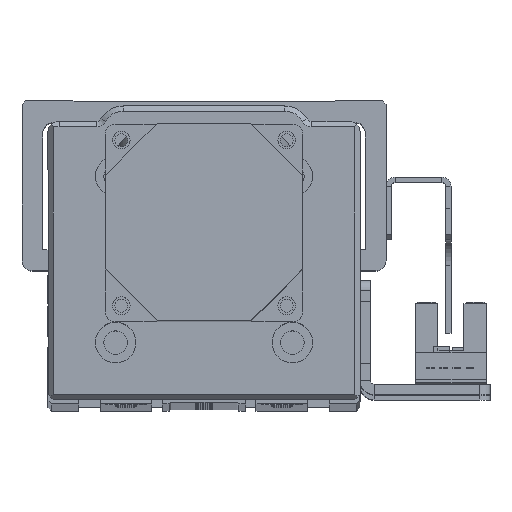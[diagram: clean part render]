
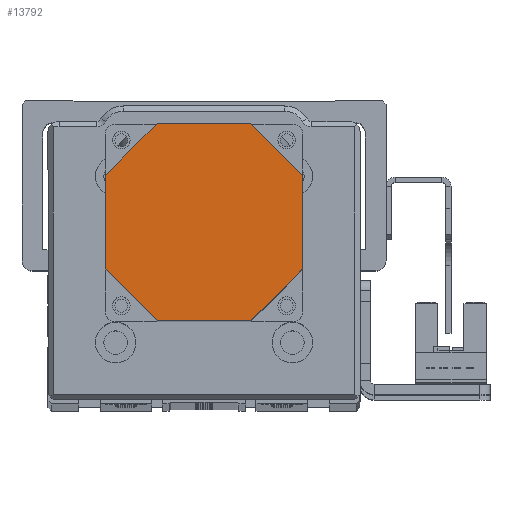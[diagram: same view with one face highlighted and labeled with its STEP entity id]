
A CAD part, top view. The second image highlights one B-rep face of the part: STEP entity #13792.
In plain terms, the highlighted planar face has unit normal (0, 0, 1) as drawn and (0, 0, -1) by its records, which use the part's own axes.
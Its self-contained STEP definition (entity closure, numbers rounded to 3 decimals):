
#1454 = ORIENTED_EDGE ( 'NONE', *, *, #23624, .T. ) ;
#1475 = ORIENTED_EDGE ( 'NONE', *, *, #23580, .T. ) ;
#1483 = ORIENTED_EDGE ( 'NONE', *, *, #23546, .T. ) ;
#1510 = ORIENTED_EDGE ( 'NONE', *, *, #23585, .T. ) ;
#1519 = ORIENTED_EDGE ( 'NONE', *, *, #23636, .T. ) ;
#1542 = ORIENTED_EDGE ( 'NONE', *, *, #23588, .T. ) ;
#1555 = ORIENTED_EDGE ( 'NONE', *, *, #23575, .T. ) ;
#1558 = ORIENTED_EDGE ( 'NONE', *, *, #23652, .T. ) ;
#3119 = AXIS2_PLACEMENT_3D ( 'NONE', #5435, #5471, #5455 ) ;
#5435 = CARTESIAN_POINT ( 'NONE',  ( 0., 0., -84. ) ) ;
#5455 = DIRECTION ( 'NONE',  ( 1., 0., 0. ) ) ;
#5470 = PLANE ( 'NONE',  #3119 ) ;
#5471 = DIRECTION ( 'NONE',  ( 0., 0., 1. ) ) ;
#11712 = FACE_OUTER_BOUND ( 'NONE', #21021, .T. ) ;
#13792 = ADVANCED_FACE ( 'NONE', ( #11712 ), #5470, .F. ) ;
#19635 = CARTESIAN_POINT ( 'NONE',  ( -19., 9., -84. ) ) ;
#19666 = CARTESIAN_POINT ( 'NONE',  ( 19., 9., -84. ) ) ;
#19669 = CARTESIAN_POINT ( 'NONE',  ( 19., -9., -84. ) ) ;
#19681 = CARTESIAN_POINT ( 'NONE',  ( 9., -19., -84. ) ) ;
#19703 = CARTESIAN_POINT ( 'NONE',  ( -9., 19., -84. ) ) ;
#19737 = CARTESIAN_POINT ( 'NONE',  ( -9., -19., -84. ) ) ;
#19744 = CARTESIAN_POINT ( 'NONE',  ( -19., -9., -84. ) ) ;
#19758 = CARTESIAN_POINT ( 'NONE',  ( 9., 19., -84. ) ) ;
#21021 = EDGE_LOOP ( 'NONE', ( #1519, #1454, #1475, #1555, #1510, #1483, #1558, #1542 ) ) ;
#21747 = LINE ( 'NONE', #22841, #21759 ) ;
#21759 = VECTOR ( 'NONE', #22825, 1000. ) ;
#21778 = LINE ( 'NONE', #22909, #21779 ) ;
#21779 = VECTOR ( 'NONE', #22902, 1000. ) ;
#21817 = VECTOR ( 'NONE', #22939, 1000. ) ;
#21832 = LINE ( 'NONE', #22904, #21867 ) ;
#21836 = LINE ( 'NONE', #22920, #21837 ) ;
#21837 = VECTOR ( 'NONE', #22905, 1000. ) ;
#21850 = LINE ( 'NONE', #22940, #21817 ) ;
#21867 = VECTOR ( 'NONE', #22969, 1000. ) ;
#21877 = LINE ( 'NONE', #23084, #21935 ) ;
#21890 = VECTOR ( 'NONE', #23110, 1000. ) ;
#21894 = LINE ( 'NONE', #23034, #21916 ) ;
#21912 = LINE ( 'NONE', #23097, #21890 ) ;
#21916 = VECTOR ( 'NONE', #23049, 1000. ) ;
#21935 = VECTOR ( 'NONE', #23086, 1000. ) ;
#22825 = DIRECTION ( 'NONE',  ( 0., -1., 0. ) ) ;
#22841 = CARTESIAN_POINT ( 'NONE',  ( 19., 9., -84. ) ) ;
#22902 = DIRECTION ( 'NONE',  ( 1., 0., 0. ) ) ;
#22904 = CARTESIAN_POINT ( 'NONE',  ( 19., 9., -84. ) ) ;
#22905 = DIRECTION ( 'NONE',  ( 0.707, 0.707, 0. ) ) ;
#22909 = CARTESIAN_POINT ( 'NONE',  ( 9., 19., -84. ) ) ;
#22920 = CARTESIAN_POINT ( 'NONE',  ( -9., 19., -84. ) ) ;
#22939 = DIRECTION ( 'NONE',  ( -1., 0., 0. ) ) ;
#22940 = CARTESIAN_POINT ( 'NONE',  ( 9., -19., -84. ) ) ;
#22969 = DIRECTION ( 'NONE',  ( 0.707, -0.707, 0. ) ) ;
#23034 = CARTESIAN_POINT ( 'NONE',  ( -19., 9., -84. ) ) ;
#23049 = DIRECTION ( 'NONE',  ( 0., 1., 0. ) ) ;
#23084 = CARTESIAN_POINT ( 'NONE',  ( -9., -19., -84. ) ) ;
#23086 = DIRECTION ( 'NONE',  ( -0.707, 0.707, 0. ) ) ;
#23097 = CARTESIAN_POINT ( 'NONE',  ( 19., -9., -84. ) ) ;
#23110 = DIRECTION ( 'NONE',  ( -0.707, -0.707, 0. ) ) ;
#23546 = EDGE_CURVE ( 'NONE', #25644, #25671, #21747, .T. ) ;
#23575 = EDGE_CURVE ( 'NONE', #25702, #25759, #21778, .T. ) ;
#23580 = EDGE_CURVE ( 'NONE', #25650, #25702, #21836, .T. ) ;
#23585 = EDGE_CURVE ( 'NONE', #25759, #25644, #21832, .T. ) ;
#23588 = EDGE_CURVE ( 'NONE', #25642, #25706, #21850, .T. ) ;
#23624 = EDGE_CURVE ( 'NONE', #25697, #25650, #21894, .T. ) ;
#23636 = EDGE_CURVE ( 'NONE', #25706, #25697, #21877, .T. ) ;
#23652 = EDGE_CURVE ( 'NONE', #25671, #25642, #21912, .T. ) ;
#25642 = VERTEX_POINT ( 'NONE', #19681 ) ;
#25644 = VERTEX_POINT ( 'NONE', #19666 ) ;
#25650 = VERTEX_POINT ( 'NONE', #19635 ) ;
#25671 = VERTEX_POINT ( 'NONE', #19669 ) ;
#25697 = VERTEX_POINT ( 'NONE', #19744 ) ;
#25702 = VERTEX_POINT ( 'NONE', #19703 ) ;
#25706 = VERTEX_POINT ( 'NONE', #19737 ) ;
#25759 = VERTEX_POINT ( 'NONE', #19758 ) ;
